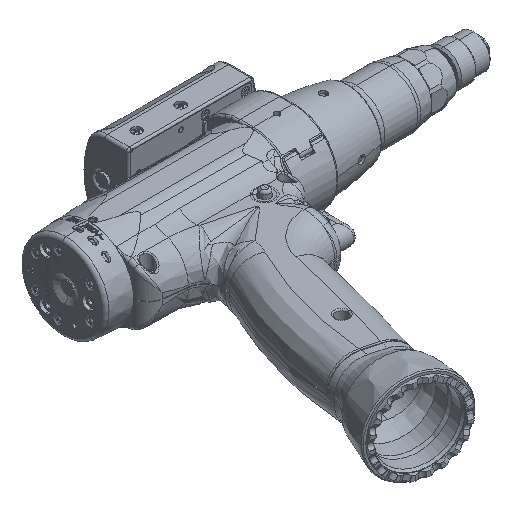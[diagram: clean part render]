
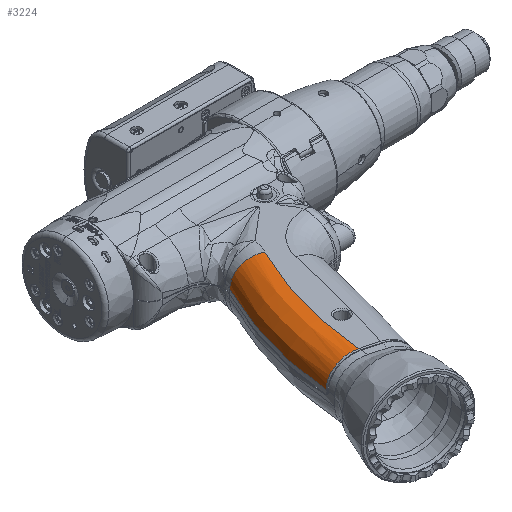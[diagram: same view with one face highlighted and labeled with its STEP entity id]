
A CAD part, isometric view. The second image highlights one B-rep face of the part: STEP entity #3224.
In plain terms, the highlighted free-form (B-spline) face has degree [2, 3] with [3, 4] control points.
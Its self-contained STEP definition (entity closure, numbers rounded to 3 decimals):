
#3224 = ADVANCED_FACE ( 'NONE', ( #95778 ), #95839, .T. ) ;
#3239 = EDGE_CURVE ( 'NONE', #16978, #61563, #96283, .T. ) ;
#8123 = CARTESIAN_POINT ( 'NONE',  ( -85.302, -47.51, 2.5 ) ) ;
#16978 = VERTEX_POINT ( 'NONE', #8123 ) ;
#61256 = ORIENTED_EDGE ( 'NONE', *, *, #61896, .F. ) ;
#61563 = VERTEX_POINT ( 'NONE', #79699 ) ;
#61895 = ORIENTED_EDGE ( 'NONE', *, *, #61916, .F. ) ;
#61896 = EDGE_CURVE ( 'NONE', #61563, #62002, #80770, .T. ) ;
#61901 = ORIENTED_EDGE ( 'NONE', *, *, #3239, .F. ) ;
#61916 = EDGE_CURVE ( 'NONE', #61982, #16978, #80986, .T. ) ;
#61982 = VERTEX_POINT ( 'NONE', #81137 ) ;
#62002 = VERTEX_POINT ( 'NONE', #81440 ) ;
#62009 = EDGE_CURVE ( 'NONE', #62002, #61982, #81428, .T. ) ;
#62013 = EDGE_LOOP ( 'NONE', ( #62035, #61256, #61901, #61895 ) ) ;
#62035 = ORIENTED_EDGE ( 'NONE', *, *, #62009, .F. ) ;
#79699 = CARTESIAN_POINT ( 'NONE',  ( -72.79, -53.792, 16.5 ) ) ;
#80770 = B_SPLINE_CURVE_WITH_KNOTS ( 'NONE', 3,
 ( #80776, #80774, #80901, #80899, #80897, #80895, #80893, #80891, #80888, #80887 ),
 .UNSPECIFIED., .F., .F.,
 ( 4, 2, 2, 1, 1, 4 ),
 ( 0., 0.467, 0.526, 0.584, 0.701, 0.935 ),
 .UNSPECIFIED. ) ;
#80774 = CARTESIAN_POINT ( 'NONE',  ( -78.236, -64.638, 16.5 ) ) ;
#80776 = CARTESIAN_POINT ( 'NONE',  ( -72.79, -53.792, 16.5 ) ) ;
#80887 = CARTESIAN_POINT ( 'NONE',  ( -92.42, -123.419, 16.5 ) ) ;
#80888 = CARTESIAN_POINT ( 'NONE',  ( -91.909, -117.38, 16.5 ) ) ;
#80891 = CARTESIAN_POINT ( 'NONE',  ( -90.713, -108.381, 16.5 ) ) ;
#80893 = CARTESIAN_POINT ( 'NONE',  ( -88.565, -97.984, 16.5 ) ) ;
#80895 = CARTESIAN_POINT ( 'NONE',  ( -87.484, -93.551, 16.5 ) ) ;
#80897 = CARTESIAN_POINT ( 'NONE',  ( -86.727, -90.6, 16.5 ) ) ;
#80899 = CARTESIAN_POINT ( 'NONE',  ( -86.33, -89.125, 16.5 ) ) ;
#80901 = CARTESIAN_POINT ( 'NONE',  ( -82.612, -75.927, 16.5 ) ) ;
#80970 = CARTESIAN_POINT ( 'NONE',  ( -85.302, -47.51, 2.5 ) ) ;
#80971 = CARTESIAN_POINT ( 'NONE',  ( -90.956, -58.771, 2.5 ) ) ;
#80973 = CARTESIAN_POINT ( 'NONE',  ( -95.569, -70.555, 2.5 ) ) ;
#80976 = CARTESIAN_POINT ( 'NONE',  ( -102.557, -94.769, 2.5 ) ) ;
#80979 = CARTESIAN_POINT ( 'NONE',  ( -104.931, -107.199, 2.5 ) ) ;
#80980 = CARTESIAN_POINT ( 'NONE',  ( -106.144, -119.742, 2.5 ) ) ;
#80986 = B_SPLINE_CURVE_WITH_KNOTS ( 'NONE', 3,
 ( #80980, #80979, #80976, #80973, #80971, #80970 ),
 .UNSPECIFIED., .F., .F.,
 ( 4, 2, 4 ),
 ( 0.063, 0.531, 1. ),
 .UNSPECIFIED. ) ;
#81137 = CARTESIAN_POINT ( 'NONE',  ( -106.144, -119.742, 2.5 ) ) ;
#81410 = CARTESIAN_POINT ( 'NONE',  ( -106.144, -119.742, 2.5 ) ) ;
#81412 = CARTESIAN_POINT ( 'NONE',  ( -106.144, -119.742, 4.346 ) ) ;
#81414 = CARTESIAN_POINT ( 'NONE',  ( -105.419, -119.936, 8.035 ) ) ;
#81416 = CARTESIAN_POINT ( 'NONE',  ( -102.344, -120.76, 12.694 ) ) ;
#81417 = CARTESIAN_POINT ( 'NONE',  ( -97.781, -121.983, 15.781 ) ) ;
#81420 = CARTESIAN_POINT ( 'NONE',  ( -94.209, -122.94, 16.5 ) ) ;
#81422 = CARTESIAN_POINT ( 'NONE',  ( -92.42, -123.419, 16.5 ) ) ;
#81428 = B_SPLINE_CURVE_WITH_KNOTS ( 'NONE', 3,
 ( #81422, #81420, #81417, #81416, #81414, #81412, #81410 ),
 .UNSPECIFIED., .F., .F.,
 ( 4, 1, 1, 1, 4 ),
 ( 0., 0.25, 0.5, 0.75, 1. ),
 .UNSPECIFIED. ) ;
#81440 = CARTESIAN_POINT ( 'NONE',  ( -92.42, -123.419, 16.5 ) ) ;
#95778 = FACE_OUTER_BOUND ( 'NONE', #62013, .T. ) ;
#95839 =( BOUNDED_SURFACE ( )  B_SPLINE_SURFACE ( 2, 3, ( 
 ( #95974, #95973, #95972, #95971 ),
 ( #95969, #95968, #95967, #95966 ),
 ( #95962, #95961, #95959, #95958 ) ),
 .UNSPECIFIED., .F., .F., .T. ) 
 B_SPLINE_SURFACE_WITH_KNOTS ( ( 3, 3 ),
 ( 4, 4 ),
 ( 0., 1. ),
 ( 0.037, 0.465 ),
 .UNSPECIFIED. ) 
 GEOMETRIC_REPRESENTATION_ITEM ( )  RATIONAL_B_SPLINE_SURFACE ( (
 ( 1., 1., 1., 1.),
 ( 0.707, 0.707, 0.707, 0.707),
 ( 1., 1., 1., 1.) ) ) 
 REPRESENTATION_ITEM ( '' )  SURFACE ( )  );
#95958 = CARTESIAN_POINT ( 'NONE',  ( -72.79, -53.792, 16.5 ) ) ;
#95959 = CARTESIAN_POINT ( 'NONE',  ( -85.031, -78.17, 16.5 ) ) ;
#95961 = CARTESIAN_POINT ( 'NONE',  ( -91.952, -105.13, 16.5 ) ) ;
#95962 = CARTESIAN_POINT ( 'NONE',  ( -92.968, -132.389, 16.5 ) ) ;
#95966 = CARTESIAN_POINT ( 'NONE',  ( -85.302, -47.51, 16.5 ) ) ;
#95967 = CARTESIAN_POINT ( 'NONE',  ( -98.439, -73.674, 16.5 ) ) ;
#95968 = CARTESIAN_POINT ( 'NONE',  ( -105.868, -102.611, 16.5 ) ) ;
#95969 = CARTESIAN_POINT ( 'NONE',  ( -106.958, -131.868, 16.5 ) ) ;
#95971 = CARTESIAN_POINT ( 'NONE',  ( -85.302, -47.51, 2.5 ) ) ;
#95972 = CARTESIAN_POINT ( 'NONE',  ( -98.439, -73.674, 2.5 ) ) ;
#95973 = CARTESIAN_POINT ( 'NONE',  ( -105.868, -102.611, 2.5 ) ) ;
#95974 = CARTESIAN_POINT ( 'NONE',  ( -106.958, -131.868, 2.5 ) ) ;
#96275 = CARTESIAN_POINT ( 'NONE',  ( -72.79, -53.792, 16.5 ) ) ;
#96276 = CARTESIAN_POINT ( 'NONE',  ( -85.302, -47.51, 16.5 ) ) ;
#96277 = CARTESIAN_POINT ( 'NONE',  ( -85.302, -47.51, 2.5 ) ) ;
#96283 =( BOUNDED_CURVE ( )  B_SPLINE_CURVE ( 2, ( #96277, #96276, #96275 ),
 .UNSPECIFIED., .F., .F. ) 
 B_SPLINE_CURVE_WITH_KNOTS ( ( 3, 3 ),
 ( 0., 1. ),
 .UNSPECIFIED. ) 
 CURVE ( )  GEOMETRIC_REPRESENTATION_ITEM ( )  RATIONAL_B_SPLINE_CURVE ( ( 1., 0.707, 1. ) ) 
 REPRESENTATION_ITEM ( '' )  );
